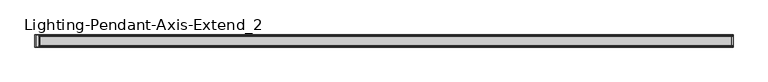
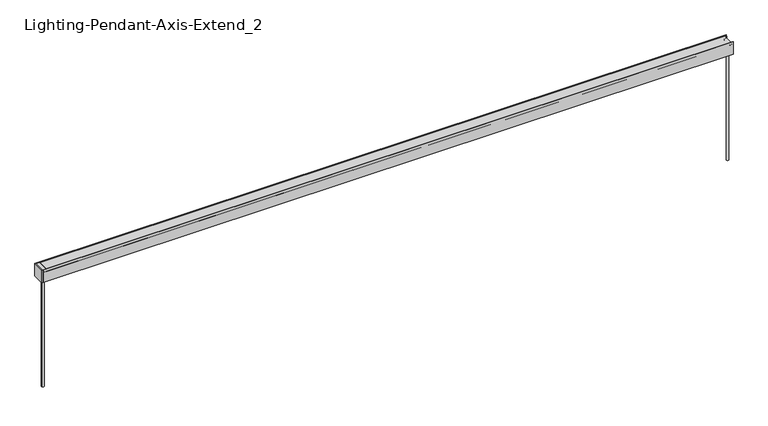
"""IFC4 building model written with IfcOpenShell, lengths in millimetres: light fixture geometry, Lighting-Pendant-Axis-Extend_2 : EX2PD-900-80-35-SO-4."""

from ifc_helpers import new_model, si_unit, point, frame, frame_2d, origin, place, context, project, spatial, polyline, circle_curve, trimmed, segment, composite_curve, outline, extrude, source, transform, mapped, element, save
from ifc_brep_helpers import plane_surface, cylinder_surface, advanced_brep


def lighting_pendant_axis_extend_2_4d92d093(model_context):
    return source(origin(), model_context, "Body", "SolidModel", [
        extrude(outline(polyline([(679.9357861, -1825.4726), (681.0375, -1826.3971437), (681.0375, -1843.786), (676.4532981, -1843.786), (676.4532981, -1833.118), (679.2595, -1833.118), (679.2595, -1826.26635), (678.46575, -1826.26635), (678.46575, -1825.4726), (679.9357861, -1825.4726)])), frame((0.0, -29.972, 0.0), z_axis=(0.0, 1.0, 0.0), x_axis=(0.0, 0.0, 1.0)), (0.0, 0.0, 1.0), 59.944),
        extrude(outline(polyline([(-1843.786, 32.004), (-1843.786, -32.004), (-1850.136, -32.004), (-1850.136, 32.004), (-1843.786, 32.004)])), frame((0.0, 0.0, 609.6), z_axis=(0.0, 0.0, 1.0), x_axis=(1.0, 0.0, 0.0)), (0.0, 0.0, 1.0), 71.4375),
        advanced_brep(
        [(1833.372, 0.0, 609.6), (1820.672, 0.0, 609.6), (1827.022, 0.0, 609.6), (1833.372, 0.0, 0.0), (1820.672, 0.0, 0.0), (1827.022, 0.0, 0.0)],
        [
            (0, 1, circle_curve(frame((1827.022, 0.0, 609.6), z_axis=(0.0, 0.0, 1.0), x_axis=(-1.0, 0.0, 0.0)), 6.35)),
            (1, 2),
            (2, 0),
            (1, 0, circle_curve(frame((1827.022, 0.0, 609.6), z_axis=(0.0, 0.0, 1.0), x_axis=(-1.0, 0.0, 0.0)), 6.35)),
            (3, 4, circle_curve(frame((1827.022, 0.0, 0.0), z_axis=(0.0, 0.0, 1.0), x_axis=(-1.0, 0.0, 0.0)), 6.35)),
            (4, 1),
            (0, 3),
            (4, 3, circle_curve(frame((1827.022, 0.0, 0.0), z_axis=(0.0, 0.0, 1.0), x_axis=(-1.0, 0.0, 0.0)), 6.35)),
            (5, 4),
            (3, 5),
        ],
        [
            plane_surface(frame((1827.022, 0.0, 609.6), z_axis=(0.0, 0.0, 1.0), x_axis=(-1.0, 0.0, 0.0))),
            cylinder_surface(frame((1827.022, 0.0, 2913.8581012), z_axis=(0.0, 0.0, -1.0), x_axis=(-1.0, 0.0, 0.0)), 6.35),
            plane_surface(frame((1827.022, 0.0, 0.0), z_axis=(0.0, 0.0, -1.0), x_axis=(-1.0, 0.0, 0.0))),
        ],
        [
            (0, [[1, 2, 3]]),
            (0, [[4, -3, -2]]),
            (1, [[5, 6, -1, 7]]),
            (1, [[8, -7, -4, -6]]),
            (2, [[9, -5, 10]]),
            (2, [[-10, -8, -9]]),
        ],
    ),
        advanced_brep(
        [(-1820.672, 0.0, 609.6), (-1833.372, 0.0, 609.6), (-1827.022, 0.0, 609.6), (-1820.672, 0.0, 0.0), (-1833.372, 0.0, 0.0), (-1827.022, 0.0, 0.0)],
        [
            (0, 1, circle_curve(frame((-1827.022, 0.0, 609.6), z_axis=(0.0, 0.0, 1.0), x_axis=(-1.0, 0.0, 0.0)), 6.35)),
            (1, 2),
            (2, 0),
            (1, 0, circle_curve(frame((-1827.022, 0.0, 609.6), z_axis=(0.0, 0.0, 1.0), x_axis=(-1.0, 0.0, 0.0)), 6.35)),
            (3, 4, circle_curve(frame((-1827.022, 0.0, 0.0), z_axis=(0.0, 0.0, 1.0), x_axis=(-1.0, 0.0, 0.0)), 6.35)),
            (4, 1),
            (0, 3),
            (4, 3, circle_curve(frame((-1827.022, 0.0, 0.0), z_axis=(0.0, 0.0, 1.0), x_axis=(-1.0, 0.0, 0.0)), 6.35)),
            (5, 4),
            (3, 5),
        ],
        [
            plane_surface(frame((-1827.022, 0.0, 609.6), z_axis=(0.0, 0.0, 1.0), x_axis=(-1.0, 0.0, 0.0))),
            cylinder_surface(frame((-1827.022, 0.0, 2913.8581012), z_axis=(0.0, 0.0, -1.0), x_axis=(-1.0, 0.0, 0.0)), 6.35),
            plane_surface(frame((-1827.022, 0.0, 0.0), z_axis=(0.0, 0.0, -1.0), x_axis=(-1.0, 0.0, 0.0))),
        ],
        [
            (0, [[1, 2, 3]]),
            (0, [[4, -3, -2]]),
            (1, [[5, 6, -1, 7]]),
            (1, [[8, -7, -4, -6]]),
            (2, [[9, -5, 10]]),
            (2, [[-10, -8, -9]]),
        ],
    ),
        extrude(outline(composite_curve([segment(polyline([(-24.1727262, 676.1479991), (-24.5114181, 669.6853737)]), True, "CONTINUOUS"), segment(trimmed(circle_curve(frame_2d((-27.2542, 666.6865)), 4.064), [point((-24.5114181, 669.6853737))], [point((-25.3818814, 663.0794903))], False, "CARTESIAN"), True, "CONTINUOUS"), segment(trimmed(circle_curve(frame_2d((-22.149344, 663.8683457)), 3.3274001), [point((-25.3818814, 663.0794903))], [point((-24.5665956, 661.5817575))], True, "CARTESIAN"), True, "CONTINUOUS"), segment(trimmed(circle_curve(frame_2d((-17.1303177, 668.6160708)), 10.2362001), [point((-24.5665956, 661.5817575))], [point((-23.2119066, 660.3823555))], True, "CARTESIAN"), True, "CONTINUOUS"), segment(trimmed(circle_curve(frame_2d((-23.7023573, 659.7183462)), 0.8255), [point((-23.2119066, 660.3823555))], [point((-24.192808, 659.0543369))], False, "CARTESIAN"), True, "CONTINUOUS"), segment(trimmed(circle_curve(frame_2d((-17.1303169, 668.6160717)), 11.8872013), [point((-24.192808, 659.0543369))], [point((-25.7659952, 660.4471908))], False, "CARTESIAN"), True, "CONTINUOUS"), segment(trimmed(circle_curve(frame_2d((-22.149344, 663.8683457)), 4.9784001), [point((-25.7659952, 660.4471908))], [point((-27.1108807, 664.27776))], False, "CARTESIAN"), True, "CONTINUOUS"), segment(trimmed(circle_curve(frame_2d((-27.2542, 666.6865)), 2.413), [point((-27.1108807, 664.27776))], [point((-25.4753941, 668.3169658))], True, "CARTESIAN"), True, "CONTINUOUS"), segment(trimmed(circle_curve(frame_2d((-23.6029669, 670.0332456)), 2.54), [point((-25.4753941, 668.3169658))], [point((-26.1394859, 670.1661789))], False, "CARTESIAN"), True, "CONTINUOUS"), segment(polyline([(-26.1394859, 670.1661789), (-25.825992, 676.1479991), (-28.829, 676.1479991), (-28.829, 678.053), (28.829, 678.053), (28.829, 676.1479991), (25.825992, 676.1479991), (26.1394859, 670.1661789)]), True, "CONTINUOUS"), segment(trimmed(circle_curve(frame_2d((23.6029669, 670.0332456)), 2.54), [point((26.1394859, 670.1661789))], [point((25.4753941, 668.3169658))], False, "CARTESIAN"), True, "CONTINUOUS"), segment(trimmed(circle_curve(frame_2d((27.2542, 666.6865)), 2.413), [point((25.4753941, 668.3169658))], [point((27.1108807, 664.27776))], True, "CARTESIAN"), True, "CONTINUOUS"), segment(trimmed(circle_curve(frame_2d((22.149344, 663.8683457)), 4.9784001), [point((27.1108807, 664.27776))], [point((25.7659952, 660.4471908))], False, "CARTESIAN"), True, "CONTINUOUS"), segment(trimmed(circle_curve(frame_2d((17.1303169, 668.6160717)), 11.8872013), [point((25.7659952, 660.4471908))], [point((24.192808, 659.0543369))], False, "CARTESIAN"), True, "CONTINUOUS"), segment(trimmed(circle_curve(frame_2d((23.7023573, 659.7183462)), 0.8255), [point((24.192808, 659.0543369))], [point((23.2119066, 660.3823555))], False, "CARTESIAN"), True, "CONTINUOUS"), segment(trimmed(circle_curve(frame_2d((17.1303177, 668.6160708)), 10.2362001), [point((23.2119066, 660.3823555))], [point((24.5665956, 661.5817575))], True, "CARTESIAN"), True, "CONTINUOUS"), segment(trimmed(circle_curve(frame_2d((22.149344, 663.8683457)), 3.3274001), [point((24.5665956, 661.5817575))], [point((25.3818814, 663.0794903))], True, "CARTESIAN"), True, "CONTINUOUS"), segment(trimmed(circle_curve(frame_2d((27.2542, 666.6865)), 4.064), [point((25.3818814, 663.0794903))], [point((24.5114181, 669.6853737))], False, "CARTESIAN"), True, "CONTINUOUS"), segment(polyline([(24.5114181, 669.6853737), (24.1727262, 676.1479991), (-24.1727262, 676.1479991)]), True, "CONTINUOUS")], self_intersect=False)), frame((-1828.8, 0.0, 0.0), z_axis=(1.0, 0.0, 0.0), x_axis=(0.0, 1.0, 0.0)), (0.0, 0.0, 1.0), 3657.6),
        extrude(outline(composite_curve([segment(polyline([(-29.972, 666.1277), (-29.972, 611.632), (29.972, 611.632), (29.972, 666.1277), (28.1325797, 666.1277)]), True, "CONTINUOUS"), segment(trimmed(circle_curve(frame_2d((26.6262297, 666.1277)), 1.5063501), [point((28.1325797, 666.1277))], [point((25.8730546, 664.8231626))], False, "CARTESIAN"), True, "CONTINUOUS"), segment(trimmed(circle_curve(frame_2d((27.0642121, 666.8863079)), 2.382315), [point((25.8730546, 664.8231626))], [point((24.6896516, 667.0783682))], False, "CARTESIAN"), True, "CONTINUOUS"), segment(polyline([(24.6896516, 667.0783682), (28.067, 669.9123), (28.067, 668.1597), (29.972, 668.1597), (29.972, 674.6875), (28.067, 674.6875), (28.067, 673.1635), (26.416, 673.2500252), (26.416, 675.9575), (29.972, 675.9575), (29.972, 681.0375), (32.004, 681.0375), (32.004, 609.6), (-32.004, 609.6), (-32.004, 681.0375), (-29.972, 681.0375), (-29.972, 675.9575), (-26.416, 675.9575), (-26.416, 673.2500252), (-28.067, 673.1635), (-28.067, 674.6875), (-29.972, 674.6875), (-29.972, 668.1597), (-28.067, 668.1597), (-28.067, 669.9123), (-24.6896516, 667.0783682)]), True, "CONTINUOUS"), segment(trimmed(circle_curve(frame_2d((-27.0642121, 666.8863079)), 2.382315), [point((-24.6896516, 667.0783682))], [point((-25.8730546, 664.8231626))], False, "CARTESIAN"), True, "CONTINUOUS"), segment(trimmed(circle_curve(frame_2d((-26.6262297, 666.1277)), 1.5063501), [point((-25.8730546, 664.8231626))], [point((-28.1325797, 666.1277))], False, "CARTESIAN"), True, "CONTINUOUS"), segment(polyline([(-28.1325797, 666.1277), (-29.972, 666.1277)]), True, "CONTINUOUS")], self_intersect=False)), frame((-1843.786, 0.0, 0.0), z_axis=(1.0, 0.0, 0.0), x_axis=(0.0, 1.0, 0.0)), (0.0, 0.0, 1.0), 3681.7427),
    ])


if __name__ == "__main__":
    model = new_model("IFC4")
    model_context = context("Model", 3, world=origin())
    ifc_project = project(units=[si_unit("LENGTHUNIT", "METRE", prefix="MILLI")], contexts=[model_context])
    site = spatial("IfcSite", under=ifc_project)
    building = spatial("IfcBuilding", under=site)
    placement = place(None, origin())
    lighting_pendant_axis_extend_2_shape = lighting_pendant_axis_extend_2_4d92d093(model_context)
    element("IfcLightFixture", 1, ObjectType="Lighting-Pendant-Axis-Extend_2 : EX2PD-900-80-35-SO-4", at=placement, inside=building, context=model_context, shape_type="MappedRepresentation", body=[
        mapped(lighting_pendant_axis_extend_2_shape, transform((0.0, 0.0, 0.0), x_axis=(1.0, 0.0, 0.0), y_axis=(0.0, 1.0, 0.0), z_axis=(0.0, 0.0, 1.0))),
    ])
    save(model, "model.ifc")
